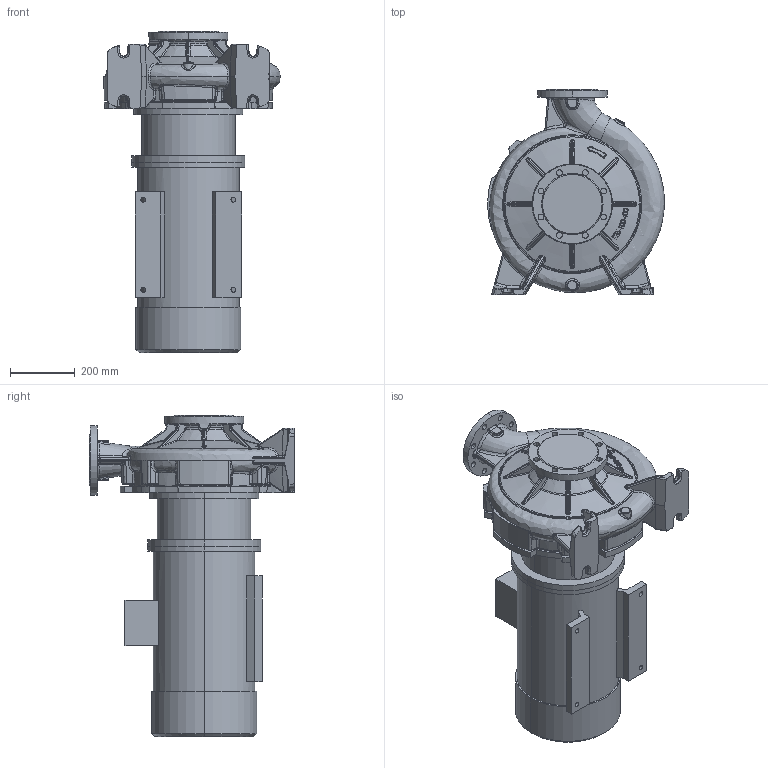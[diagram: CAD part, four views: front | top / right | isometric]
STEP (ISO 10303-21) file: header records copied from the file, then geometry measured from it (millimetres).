
FILE_DESCRIPTION (( 'STEP AP203' ), '1' );
FILE_NAME ('KRM125-100-400-4-22.STEP', '2026-08-13T08:42:08', ( '' ), ( '' ), 'SwSTEP 2.0', 'SolidWorks 2016', '' );
FILE_SCHEMA (( 'CONFIG_CONTROL_DESIGN' ));
Length unit declared in the file: millimetre
Products named in the file (1): KRM125-100-400-4-22
Bounding box: 547.83 x 635 x 995.8 mm (x, y, z)
Volume: 101179751.8 mm3; surface area: 2994243.3 mm2
Topology: 12 solids, 12 shells, 1379 faces, 3295 edges, 1953 vertices
Faces by surface type: bspline 580, plane 278, cylinder 268, torus 106, cone 92, sphere 55
Entity records: 91960 total; most frequent: CARTESIAN_POINT 64671, ORIENTED_EDGE 6524, DIRECTION 4586, EDGE_CURVE 3262, AXIS2_PLACEMENT_3D 1956, VERTEX_POINT 1953, EDGE_LOOP 1449, ADVANCED_FACE 1379
